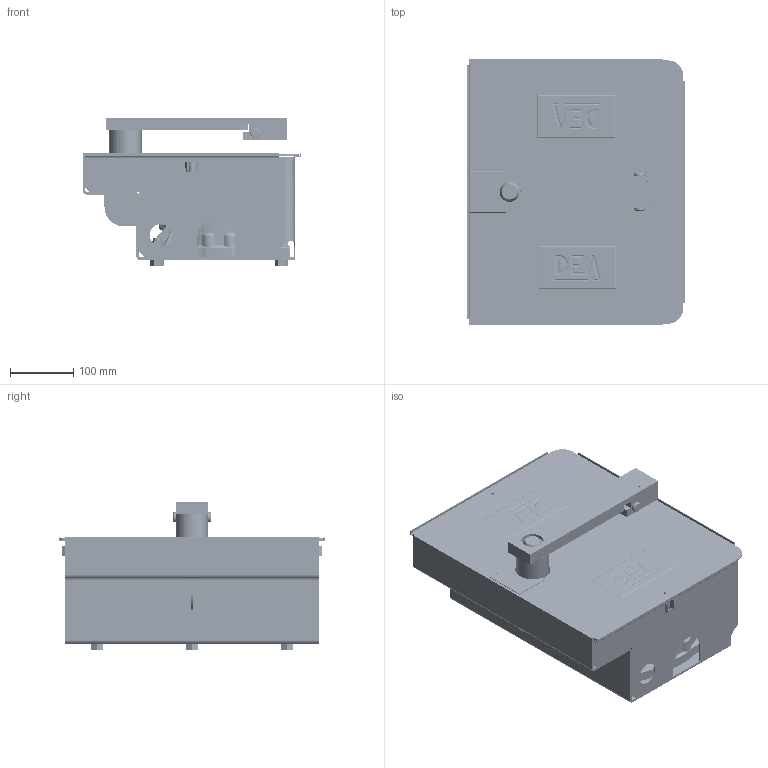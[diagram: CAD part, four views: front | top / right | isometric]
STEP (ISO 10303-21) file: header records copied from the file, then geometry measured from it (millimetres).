
FILE_DESCRIPTION(/* description */ ('Unknown'),/* implementation_level */ '2;1');
FILE_NAME(/* name */ 'GHOST 100 + 215',/* time_stamp */ '2021-09-21T16:47:58+02:00',/* author */ ('Unknown'),/* organization */ ('Unknown'),/* preprocessor_version */ 'ST-DEVELOPER v16.7',/* originating_system */ 'DEX',/* authorisation */ $);
FILE_SCHEMA (('AUTOMOTIVE_DESIGN {1 0 10303 214 3 1 1}'));
Products named in the file (40): 629000; 386322; 386340; 386351; 132305; 330600; 386180 P1; 322240; 122002; 132650; 134820; 386333; 322270; 621250_oa_0; 445272_oa_1; 311162; 470590_oa_2; 184072; 311170; 134180; 322231; 132210; 131504; 131715; 311200; 131004; 132212; 132228; 131003; 132008; 386770; 480664_oa_3; 480664 P1; 480664 P2; 480664 P3; 480664 P4; 350732; 350732 P1; 350732 P2
Assembly tree (63 placements, depth 4):
  629000
    386322
      386340
      386351
      132305  x6
      330600
      386180 P1
    322240
    122002
    132650  x2
    134820  x2
    386333
    322270  x2
    621250_oa_0
      445272_oa_1
        311162
      470590_oa_2
        184072
      311170
      134180  x8
      322231
      132210
      131504
      131715
      311200  x2
      131004  x4
      132212
      132228
      131003  x2
      132008  x4
    386770
    480664_oa_3
      480664 P1
      480664 P2
      480664 P3
      480664 P4  x2
    350732
      350732
      350732 P1
      350732 P2
Bounding box: 343.83 x 420 x 234 mm (x, y, z)
Volume: 2695082.7 mm3; surface area: 1807141.3 mm2
Topology: 59 solids, 60 shells, 8533 faces, 20245 edges, 11756 vertices
Faces by surface type: plane 2498, bspline 2493, cylinder 1956, torus 763, cone 581, sphere 242
Full cylindrical faces by diameter (mm): 4.5 x1, 4.917 x1, 6 x2, 6.3 x8, 6.8 x10, 7 x2, 8 x6, 8.376 x2, 8.4 x2, 8.985 x2, 9 x8, 10 x3, 10.5 x3, 12 x10, 13 x9, 13.2 x6, 14 x3, 14.376 x1, 14.38 x1, 15 x4, 16 x3, 17.2 x1, 18 x1, 19 x1, 19.8 x2, 20 x4, 20.5 x1, 22 x4, 25 x2, 34.8 x1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
Entity records: 271797 total; most frequent: CARTESIAN_POINT 85900, ORIENTED_EDGE 34546, DIRECTION 30518, EDGE_CURVE 17275, AXIS2_PLACEMENT_3D 12172, VERTEX_POINT 10373, FACE_BOUND 8141, EDGE_LOOP 8139
